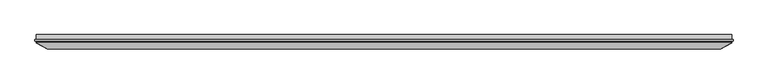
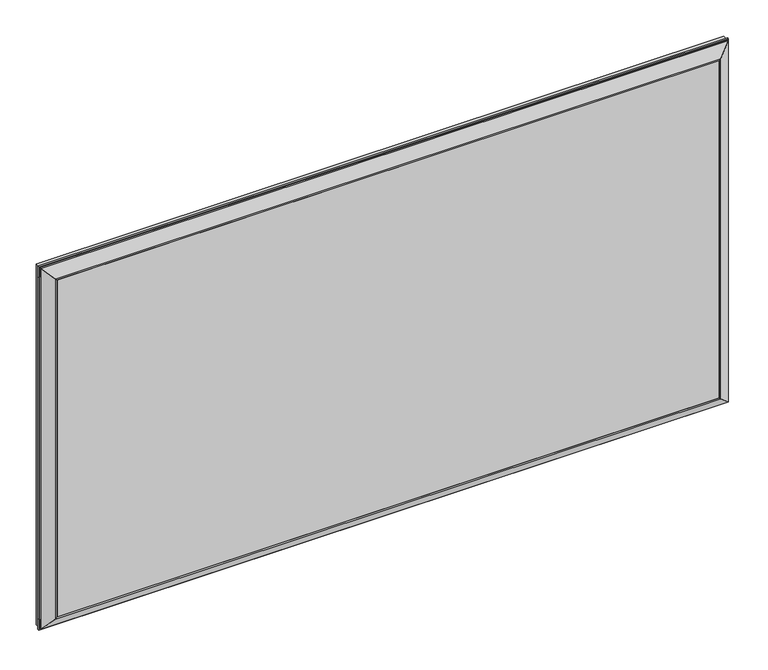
"""IFC4 building model written with IfcOpenShell, lengths in millimetres: proxy geometry, IMPRESS^TABLE 7_60x108 LOOP W CHASE-TOP PARTS SOLID."""

from ifc_helpers import new_model, si_unit, frame, origin, place, context, project, spatial, polyline, outline, extrude, faceted_brep, source, transform, mapped, element, save


def generic_models_caa54cf2(model_context):
    return source(origin(), model_context, "Body", "SolidModel", [
        extrude(outline(polyline([(50.8, 0.0), (2692.4, 0.0), (2692.4, -38.1), (50.8, -38.1), (50.8, 0.0)])), frame((0.0, 0.0, -1473.2), z_axis=(0.0, 0.0, 1.0), x_axis=(1.0, 0.0, 0.0)), (0.0, 0.0, 1.0), 1422.4),
        extrude(outline(polyline([(-4.7625, 0.0), (2747.9625, 0.0), (2747.9625, -6.35), (-4.7625, -6.35), (-4.7625, 0.0)])), frame((0.0, 0.0, -1528.7625), z_axis=(0.0, 0.0, 1.0), x_axis=(1.0, 0.0, 0.0)), (0.0, 0.0, 1.0), 44.45),
        extrude(outline(polyline([(2703.5125, 0.0), (2747.9625, 0.0), (2747.9625, -6.35), (2703.5125, -6.35), (2703.5125, 0.0)])), frame((0.0, 0.0, -1509.7125), z_axis=(0.0, 0.0, 1.0), x_axis=(1.0, 0.0, 0.0)), (0.0, 0.0, 1.0), 1495.425),
        faceted_brep([(0.0, 0.0, -1524.0), (2743.2, 0.0, -1524.0), (2743.2, -12.7, -1524.0), (0.0, -12.7, -1524.0), (2692.4, 0.0, -1473.2), (2692.4, -38.1, -1473.2), (2699.2059095, -38.1, -1480.0059095), (50.8, 0.0, -1473.2), (43.9940905, -38.1, -1480.0059095), (50.8, -38.1, -1473.2)], [[[0, 1, 2, 3]], [[2, 1, 4, 5, 6]], [[1, 0, 7, 4]], [[2, 6, 8, 3]], [[8, 6, 5, 9]], [[0, 3, 8, 9, 7]], [[4, 7, 9, 5]]]),
        extrude(outline(polyline([(2747.9625, 0.0), (2747.9625, -6.35), (-4.7625, -6.35), (-4.7625, 0.0), (2747.9625, 0.0)])), frame((0.0, 0.0, -39.6875), z_axis=(0.0, 0.0, 1.0), x_axis=(1.0, 0.0, 0.0)), (0.0, 0.0, 1.0), 44.45),
        faceted_brep([(2743.2, 0.0, -1524.0), (2743.2, 0.0, 0.0), (2743.2, -12.7, 0.0), (2743.2, -12.7, -1524.0), (2692.4, 0.0, -50.8), (2692.4, -38.1, -50.8), (2699.2059095, -38.1, -43.9940905), (2692.4, 0.0, -1473.2), (2699.2059095, -38.1, -1480.0059095), (2692.4, -38.1, -1473.2)], [[[0, 1, 2, 3]], [[2, 1, 4, 5, 6]], [[1, 0, 7, 4]], [[2, 6, 8, 3]], [[8, 6, 5, 9]], [[0, 3, 8, 9, 7]], [[4, 7, 9, 5]]]),
        faceted_brep([(0.0, 0.0, 0.0), (0.0, 0.0, -1524.0), (0.0, -12.7, -1524.0), (0.0, -12.7, 0.0), (50.8, 0.0, -1473.2), (50.8, -38.1, -1473.2), (43.9940905, -38.1, -1480.0059095), (50.8, 0.0, -50.8), (43.9940905, -38.1, -43.9940905), (50.8, -38.1, -50.8)], [[[0, 1, 2, 3]], [[2, 1, 4, 5, 6]], [[1, 0, 7, 4]], [[2, 6, 8, 3]], [[0, 3, 8, 9, 7]], [[4, 7, 9, 5]], [[8, 6, 5, 9]]]),
        extrude(outline(polyline([(-4.7625, 0.0), (39.6875, 0.0), (39.6875, -6.35), (-4.7625, -6.35), (-4.7625, 0.0)])), frame((0.0, 0.0, -1509.7125), z_axis=(0.0, 0.0, 1.0), x_axis=(1.0, 0.0, 0.0)), (0.0, 0.0, 1.0), 1495.425),
        extrude(outline(polyline([(2743.2, 0.0), (0.0, 0.0), (0.0, 19.05), (2743.2, 19.05), (2743.2, 0.0)])), frame((0.0, 0.0, -1524.0), z_axis=(0.0, 0.0, 1.0), x_axis=(1.0, 0.0, 0.0)), (0.0, 0.0, 1.0), 1524.0),
        faceted_brep([(2743.2, 0.0, 0.0), (0.0, 0.0, 0.0), (0.0, -12.7, 0.0), (2743.2, -12.7, 0.0), (50.8, 0.0, -50.8), (50.8, -38.1, -50.8), (43.9940905, -38.1, -43.9940905), (2692.4, 0.0, -50.8), (2699.2059095, -38.1, -43.9940905), (2692.4, -38.1, -50.8)], [[[0, 1, 2, 3]], [[2, 1, 4, 5, 6]], [[1, 0, 7, 4]], [[2, 6, 8, 3]], [[8, 6, 5, 9]], [[0, 3, 8, 9, 7]], [[4, 7, 9, 5]]]),
    ])


if __name__ == "__main__":
    model = new_model("IFC4")
    model_context = context("Model", 3, world=origin())
    ifc_project = project(units=[si_unit("LENGTHUNIT", "METRE", prefix="MILLI")], contexts=[model_context])
    site = spatial("IfcSite", under=ifc_project)
    building = spatial("IfcBuilding", under=site)
    placement = place(None, origin())
    generic_models_shape = generic_models_caa54cf2(model_context)
    element("IfcBuildingElementProxy", 1, Name="IMPRESS^TABLE 7_60x108 LOOP W CHASE-TOP PARTS SOLID", ObjectType="IMPRESS^TABLE 7_60x108 LOOP W CHASE-TOP PARTS SOLID", at=placement, inside=building, context=model_context, shape_type="MappedRepresentation", body=[
        mapped(generic_models_shape, transform((0.0, 0.0, 0.0), x_axis=(1.0, 0.0, 0.0), y_axis=(0.0, 1.0, 0.0), z_axis=(0.0, 0.0, 1.0))),
    ])
    save(model, "model.ifc")
